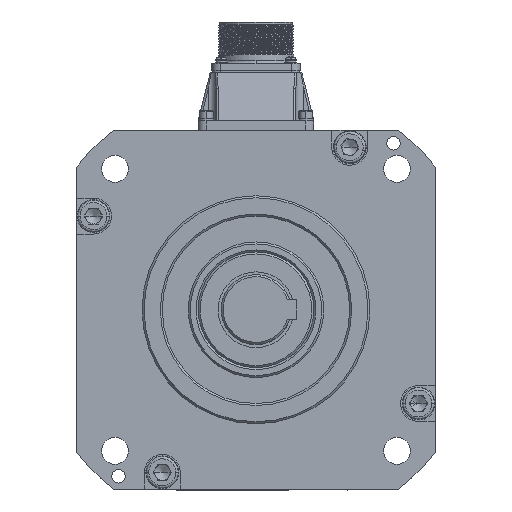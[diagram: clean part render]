
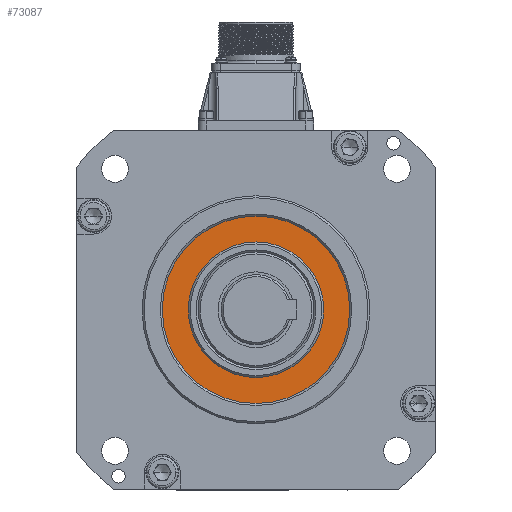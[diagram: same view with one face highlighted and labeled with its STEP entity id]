
A CAD part, top view. The second image highlights one B-rep face of the part: STEP entity #73087.
In plain terms, the highlighted planar face has unit normal (0, 0, 1).
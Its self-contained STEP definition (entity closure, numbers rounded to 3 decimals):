
#761 = ORIENTED_EDGE ( 'NONE', *, *, #49074, .T. ) ;
#1771 = DIRECTION ( 'NONE',  ( -1., 0., 0. ) ) ;
#2627 = CARTESIAN_POINT ( 'NONE',  ( 188.716, 188.561, 257.482 ) ) ;
#3013 = DIRECTION ( 'NONE',  ( -1., 0., 0. ) ) ;
#3782 = DIRECTION ( 'NONE',  ( 0., 0., 1. ) ) ;
#7072 = FACE_OUTER_BOUND ( 'NONE', #34643, .T. ) ;
#8215 = DIRECTION ( 'NONE',  ( 0., 0., -1. ) ) ;
#10761 = DIRECTION ( 'NONE',  ( -1., 0., 0. ) ) ;
#11191 = ORIENTED_EDGE ( 'NONE', *, *, #103926, .T. ) ;
#12530 = CARTESIAN_POINT ( 'NONE',  ( 141.716, 188.561, 257.482 ) ) ;
#12687 = VERTEX_POINT ( 'NONE', #41278 ) ;
#13824 = AXIS2_PLACEMENT_3D ( 'NONE', #2627, #59183, #10761 ) ;
#30909 = AXIS2_PLACEMENT_3D ( 'NONE', #100632, #3782, #60338 ) ;
#31364 = AXIS2_PLACEMENT_3D ( 'NONE', #56633, #8215, #64803 ) ;
#34164 = AXIS2_PLACEMENT_3D ( 'NONE', #99867, #51408, #3013 ) ;
#34643 = EDGE_LOOP ( 'NONE', ( #11191, #35085 ) ) ;
#35085 = ORIENTED_EDGE ( 'NONE', *, *, #97943, .T. ) ;
#41278 = CARTESIAN_POINT ( 'NONE',  ( 235.716, 188.561, 257.482 ) ) ;
#42511 = CARTESIAN_POINT ( 'NONE',  ( 154.716, 188.561, 257.482 ) ) ;
#49074 = EDGE_CURVE ( 'NONE', #96105, #88481, #64118, .T. ) ;
#50213 = DIRECTION ( 'NONE',  ( 0., 0., 1. ) ) ;
#51408 = DIRECTION ( 'NONE',  ( 0., 0., -1. ) ) ;
#56633 = CARTESIAN_POINT ( 'NONE',  ( 188.716, 188.561, 257.482 ) ) ;
#59072 = EDGE_CURVE ( 'NONE', #88481, #96105, #62339, .T. ) ;
#59100 = ORIENTED_EDGE ( 'NONE', *, *, #59072, .T. ) ;
#59183 = DIRECTION ( 'NONE',  ( 0., 0., 1. ) ) ;
#59990 = PLANE ( 'NONE',  #30909 ) ;
#60338 = DIRECTION ( 'NONE',  ( 1., 0., 0. ) ) ;
#62339 = CIRCLE ( 'NONE', #31364, 34. ) ;
#64118 = CIRCLE ( 'NONE', #34164, 34. ) ;
#64803 = DIRECTION ( 'NONE',  ( -1., 0., 0. ) ) ;
#72676 = CARTESIAN_POINT ( 'NONE',  ( 222.716, 188.561, 257.482 ) ) ;
#73087 = ADVANCED_FACE ( 'NONE', ( #7072, #90584 ), #59990, .T. ) ;
#73758 = AXIS2_PLACEMENT_3D ( 'NONE', #98674, #50213, #1771 ) ;
#74449 = CIRCLE ( 'NONE', #13824, 47. ) ;
#74669 = VERTEX_POINT ( 'NONE', #12530 ) ;
#75159 = EDGE_LOOP ( 'NONE', ( #761, #59100 ) ) ;
#88481 = VERTEX_POINT ( 'NONE', #72676 ) ;
#90584 = FACE_BOUND ( 'NONE', #75159, .T. ) ;
#96105 = VERTEX_POINT ( 'NONE', #42511 ) ;
#97943 = EDGE_CURVE ( 'NONE', #12687, #74669, #100665, .T. ) ;
#98674 = CARTESIAN_POINT ( 'NONE',  ( 188.716, 188.561, 257.482 ) ) ;
#99867 = CARTESIAN_POINT ( 'NONE',  ( 188.716, 188.561, 257.482 ) ) ;
#100632 = CARTESIAN_POINT ( 'NONE',  ( 188.716, 188.561, 257.482 ) ) ;
#100665 = CIRCLE ( 'NONE', #73758, 47. ) ;
#103926 = EDGE_CURVE ( 'NONE', #74669, #12687, #74449, .T. ) ;
